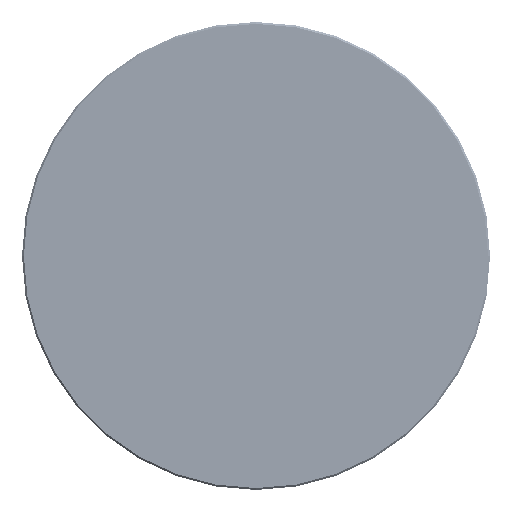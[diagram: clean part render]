
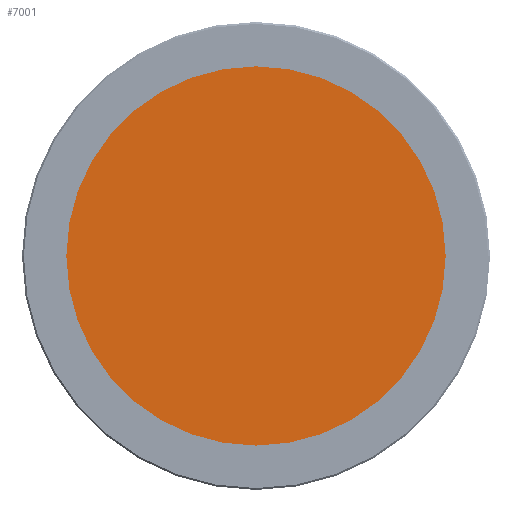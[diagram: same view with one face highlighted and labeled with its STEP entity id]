
A CAD part, top view. The second image highlights one B-rep face of the part: STEP entity #7001.
In plain terms, the highlighted planar face has unit normal (0, 0, 1).
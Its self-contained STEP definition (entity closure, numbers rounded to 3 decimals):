
#1981=CARTESIAN_POINT('',(0.,0.,3.58));
#1982=DIRECTION('',(0.,0.,-1.));
#1983=DIRECTION('',(1.,0.,0.));
#1984=AXIS2_PLACEMENT_3D('',#1981,#1982,#1983);
#1986=CARTESIAN_POINT('',(0.,0.,3.58));
#1987=DIRECTION('',(0.,0.,-1.));
#1988=DIRECTION('',(-1.,0.,0.));
#1989=AXIS2_PLACEMENT_3D('',#1986,#1987,#1988);
#2767=CARTESIAN_POINT('',(51.06,0.,3.58));
#2768=CARTESIAN_POINT('',(-51.06,0.,3.58));
#2769=VERTEX_POINT('',#2767);
#2770=VERTEX_POINT('',#2768);
#6991=CARTESIAN_POINT('',(0.,0.,3.58));
#6992=DIRECTION('',(0.,0.,1.));
#6993=DIRECTION('',(-1.,0.,0.));
#6994=AXIS2_PLACEMENT_3D('',#6991,#6992,#6993);
#6995=PLANE('',#6994);
#6996=ORIENTED_EDGE('',*,*,#6974,.T.);
#6998=ORIENTED_EDGE('',*,*,#6997,.T.);
#6999=EDGE_LOOP('',(#6996,#6998));
#7000=FACE_OUTER_BOUND('',#6999,.F.);
#7001=ADVANCED_FACE('',(#7000),#6995,.T.);
#1985=CIRCLE('',#1984,51.06);
#1990=CIRCLE('',#1989,51.06);
#6974=EDGE_CURVE('',#2769,#2770,#1985,.T.);
#6997=EDGE_CURVE('',#2770,#2769,#1990,.T.);
